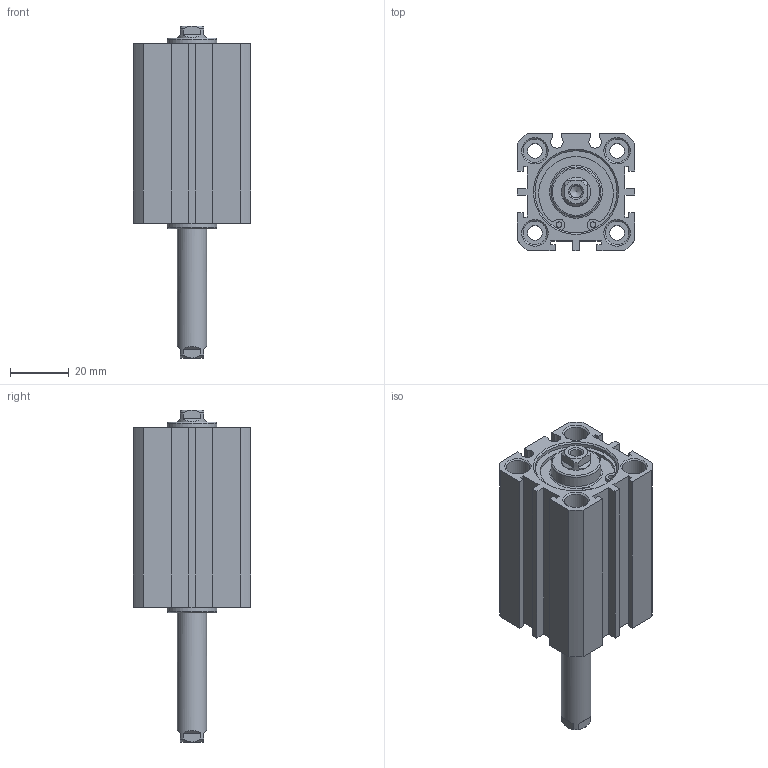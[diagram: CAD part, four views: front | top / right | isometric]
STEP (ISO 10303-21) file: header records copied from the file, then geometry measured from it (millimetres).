
FILE_DESCRIPTION((''),'2;1');
FILE_NAME('I:\3D電子目錄\氣缸\JDD\JDD\JDD25\JDD25x40.stp','2007-02-08T09:25:23',('662F206'),(''),'Autodesk Inventor 10','Autodesk Inventor 10','');
FILE_SCHEMA(('AUTOMOTIVE_DESIGN { 1 0 10303 214 1 1 1 1 }'));
Length unit declared in the file: millimetre
Products named in the file (3): JDD25; R 形環 28
Assembly tree (3 placements, depth 2):
  JDD25
    JDD25
    R 形環 28  x2
Bounding box: 40 x 40 x 113.2 mm (x, y, z)
Volume: 82136.6 mm3; surface area: 25373.9 mm2
Topology: 3 solids, 3 shells, 172 faces, 410 edges, 266 vertices
Faces by surface type: plane 92, cylinder 46, cone 22, bspline 10, torus 2
Full cylindrical faces by diameter (mm): 1.5 x2, 1.9 x4, 5.1 x4, 8 x8, 10 x2, 17 x2, 28 x4, 29.4 x2
Entity records: 4529 total; most frequent: CARTESIAN_POINT 950, DIRECTION 740, ORIENTED_EDGE 640, EDGE_CURVE 320, AXIS2_PLACEMENT_3D 280, EDGE_LOOP 244, VERTEX_POINT 236, VECTOR 180
